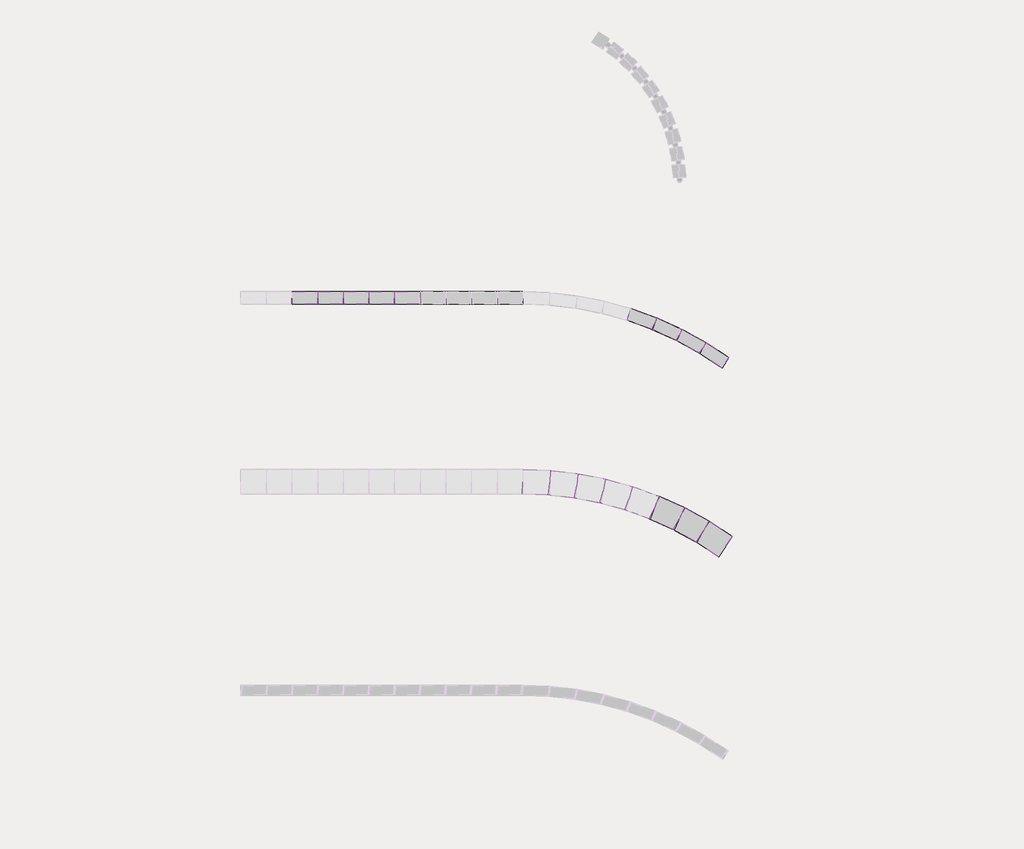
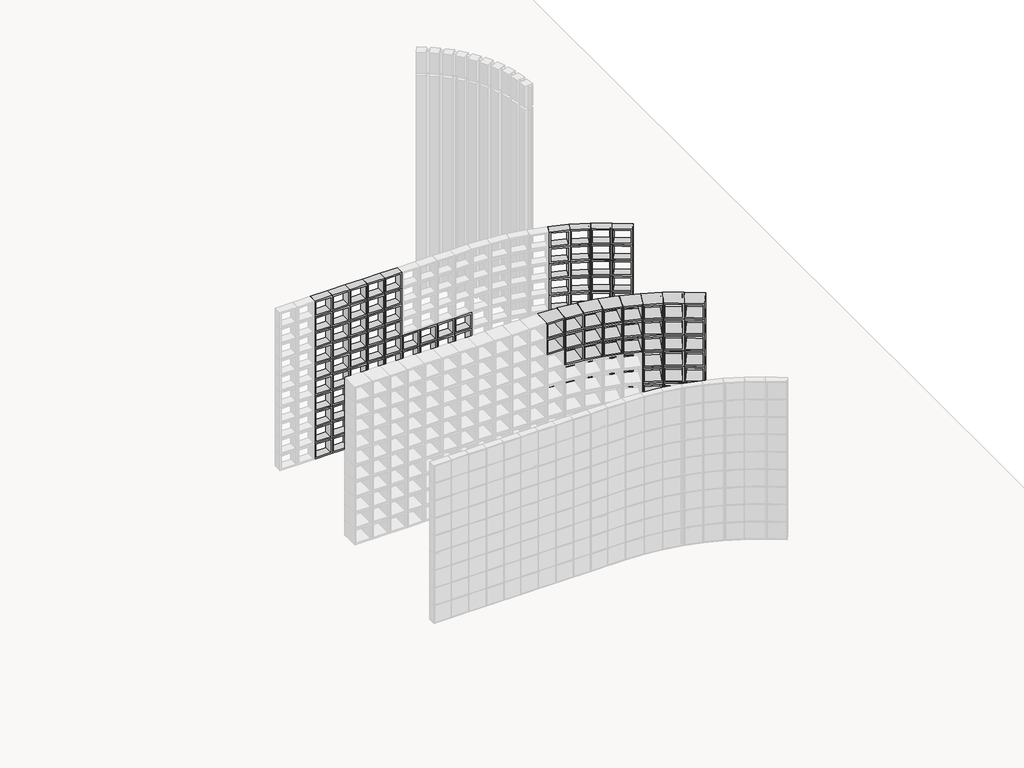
# One storey, part 8 of 15: 158 plates.
"""IFC4 building model written with IfcOpenShell, lengths in millimetres."""

from ifc_helpers import new_model, si_unit, origin, place, context, project, spatial, transform, mapped, element, save
from components import plate_64430686, plate_6f004fc1, plate_db6f8793

model = new_model("IFC4")

# Units and contexts
model_context = context("Model", 3, world=origin())
ifc_project = project(units=[si_unit("LENGTHUNIT", "METRE", prefix="MILLI")], contexts=[model_context])

# Site, building, storey
site = spatial("IfcSite", under=ifc_project)
building = spatial("IfcBuilding", under=site)
storey = spatial("IfcBuildingStorey", under=building, Name="TÉRREO", Elevation=0.0)

# Plates
placement = place(None, origin())
plate_shape = plate_64430686(model_context)
element("IfcPlate", 1, ObjectType="pnl - ELEMENTO VAZADO QUADRICULADO : e = 10", at=placement, inside=storey, context=model_context, shape_type="MappedRepresentation", body=[
    mapped(plate_shape, transform((44114.8395705, 6116.9852574, 0.0), x_axis=(1.0, 0.0, 0.0), y_axis=(0.0, 1.0, 0.0), z_axis=(0.0, 0.0, 1.0))),
])
element("IfcPlate", 2, ObjectType="pnl - ELEMENTO VAZADO QUADRICULADO : e = 10", at=placement, inside=storey, context=model_context, shape_type="MappedRepresentation", body=[
    mapped(plate_shape, transform((44323.9304796, 6116.9852574, 0.0), x_axis=(1.0, 0.0, 0.0), y_axis=(0.0, 1.0, 0.0), z_axis=(0.0, 0.0, 1.0))),
])
element("IfcPlate", 3, ObjectType="pnl - ELEMENTO VAZADO QUADRICULADO : e = 10", at=placement, inside=storey, context=model_context, shape_type="MappedRepresentation", body=[
    mapped(plate_shape, transform((44533.0213887, 6116.9852574, 0.0), x_axis=(1.0, 0.0, 0.0), y_axis=(0.0, 1.0, 0.0), z_axis=(0.0, 0.0, 1.0))),
])
element("IfcPlate", 4, ObjectType="pnl - ELEMENTO VAZADO QUADRICULADO : e = 10", at=placement, inside=storey, context=model_context, shape_type="MappedRepresentation", body=[
    mapped(plate_shape, transform((44742.1122977, 6116.9852574, 0.0), x_axis=(1.0, 0.0, 0.0), y_axis=(0.0, 1.0, 0.0), z_axis=(0.0, 0.0, 1.0))),
])
element("IfcPlate", 5, ObjectType="pnl - ELEMENTO VAZADO QUADRICULADO : e = 10", at=placement, inside=storey, context=model_context, shape_type="MappedRepresentation", body=[
    mapped(plate_shape, transform((44951.2032068, 6116.9852574, 0.0), x_axis=(1.0, 0.0, 0.0), y_axis=(0.0, 1.0, 0.0), z_axis=(0.0, 0.0, 1.0))),
])
element("IfcPlate", 6, ObjectType="pnl - ELEMENTO VAZADO QUADRICULADO : e = 10", at=placement, inside=storey, context=model_context, shape_type="MappedRepresentation", body=[
    mapped(plate_shape, transform((45160.2941159, 6116.9852574, 0.0), x_axis=(1.0, 0.0, 0.0), y_axis=(0.0, 1.0, 0.0), z_axis=(0.0, 0.0, 1.0))),
])
element("IfcPlate", 7, ObjectType="pnl - ELEMENTO VAZADO QUADRICULADO : e = 10", at=placement, inside=storey, context=model_context, shape_type="MappedRepresentation", body=[
    mapped(plate_shape, transform((45369.385025, 6116.9852574, 0.0), x_axis=(1.0, 0.0, 0.0), y_axis=(0.0, 1.0, 0.0), z_axis=(0.0, 0.0, 1.0))),
])
element("IfcPlate", 8, ObjectType="pnl - ELEMENTO VAZADO QUADRICULADO : e = 10", at=placement, inside=storey, context=model_context, shape_type="MappedRepresentation", body=[
    mapped(plate_shape, transform((45578.4759341, 6116.9852574, 0.0), x_axis=(1.0, 0.0, 0.0), y_axis=(0.0, 1.0, 0.0), z_axis=(0.0, 0.0, 1.0))),
])
element("IfcPlate", 9, ObjectType="pnl - ELEMENTO VAZADO QUADRICULADO : e = 10", at=placement, inside=storey, context=model_context, shape_type="MappedRepresentation", body=[
    mapped(plate_shape, transform((45787.5668432, 6116.9852574, 0.0), x_axis=(1.0, 0.0, 0.0), y_axis=(0.0, 1.0, 0.0), z_axis=(0.0, 0.0, 1.0))),
])
element("IfcPlate", 10, ObjectType="pnl - ELEMENTO VAZADO QUADRICULADO : e = 10", at=placement, inside=storey, context=model_context, shape_type="MappedRepresentation", body=[
    mapped(plate_shape, transform((44114.8395705, 6116.9852574, 200.0), x_axis=(1.0, 0.0, 0.0), y_axis=(0.0, 1.0, 0.0), z_axis=(0.0, 0.0, 1.0))),
])
element("IfcPlate", 11, ObjectType="pnl - ELEMENTO VAZADO QUADRICULADO : e = 10", at=placement, inside=storey, context=model_context, shape_type="MappedRepresentation", body=[
    mapped(plate_shape, transform((44323.9304796, 6116.9852574, 200.0), x_axis=(1.0, 0.0, 0.0), y_axis=(0.0, 1.0, 0.0), z_axis=(0.0, 0.0, 1.0))),
])
element("IfcPlate", 12, ObjectType="pnl - ELEMENTO VAZADO QUADRICULADO : e = 10", at=placement, inside=storey, context=model_context, shape_type="MappedRepresentation", body=[
    mapped(plate_shape, transform((44533.0213887, 6116.9852574, 200.0), x_axis=(1.0, 0.0, 0.0), y_axis=(0.0, 1.0, 0.0), z_axis=(0.0, 0.0, 1.0))),
])
element("IfcPlate", 13, ObjectType="pnl - ELEMENTO VAZADO QUADRICULADO : e = 10", at=placement, inside=storey, context=model_context, shape_type="MappedRepresentation", body=[
    mapped(plate_shape, transform((44742.1122977, 6116.9852574, 200.0), x_axis=(1.0, 0.0, 0.0), y_axis=(0.0, 1.0, 0.0), z_axis=(0.0, 0.0, 1.0))),
])
element("IfcPlate", 14, ObjectType="pnl - ELEMENTO VAZADO QUADRICULADO : e = 10", at=placement, inside=storey, context=model_context, shape_type="MappedRepresentation", body=[
    mapped(plate_shape, transform((44951.2032068, 6116.9852574, 200.0), x_axis=(1.0, 0.0, 0.0), y_axis=(0.0, 1.0, 0.0), z_axis=(0.0, 0.0, 1.0))),
])
element("IfcPlate", 15, ObjectType="pnl - ELEMENTO VAZADO QUADRICULADO : e = 10", at=placement, inside=storey, context=model_context, shape_type="MappedRepresentation", body=[
    mapped(plate_shape, transform((45160.2941159, 6116.9852574, 200.0), x_axis=(1.0, 0.0, 0.0), y_axis=(0.0, 1.0, 0.0), z_axis=(0.0, 0.0, 1.0))),
])
element("IfcPlate", 16, ObjectType="pnl - ELEMENTO VAZADO QUADRICULADO : e = 10", at=placement, inside=storey, context=model_context, shape_type="MappedRepresentation", body=[
    mapped(plate_shape, transform((45369.385025, 6116.9852574, 200.0), x_axis=(1.0, 0.0, 0.0), y_axis=(0.0, 1.0, 0.0), z_axis=(0.0, 0.0, 1.0))),
])
element("IfcPlate", 17, ObjectType="pnl - ELEMENTO VAZADO QUADRICULADO : e = 10", at=placement, inside=storey, context=model_context, shape_type="MappedRepresentation", body=[
    mapped(plate_shape, transform((45578.4759341, 6116.9852574, 200.0), x_axis=(1.0, 0.0, 0.0), y_axis=(0.0, 1.0, 0.0), z_axis=(0.0, 0.0, 1.0))),
])
element("IfcPlate", 18, ObjectType="pnl - ELEMENTO VAZADO QUADRICULADO : e = 10", at=placement, inside=storey, context=model_context, shape_type="MappedRepresentation", body=[
    mapped(plate_shape, transform((45787.5668432, 6116.9852574, 200.0), x_axis=(1.0, 0.0, 0.0), y_axis=(0.0, 1.0, 0.0), z_axis=(0.0, 0.0, 1.0))),
])
element("IfcPlate", 19, ObjectType="pnl - ELEMENTO VAZADO QUADRICULADO : e = 10", at=placement, inside=storey, context=model_context, shape_type="MappedRepresentation", body=[
    mapped(plate_shape, transform((44114.8395705, 6116.9852574, 400.0), x_axis=(1.0, 0.0, 0.0), y_axis=(0.0, 1.0, 0.0), z_axis=(0.0, 0.0, 1.0))),
])
element("IfcPlate", 20, ObjectType="pnl - ELEMENTO VAZADO QUADRICULADO : e = 10", at=placement, inside=storey, context=model_context, shape_type="MappedRepresentation", body=[
    mapped(plate_shape, transform((44323.9304796, 6116.9852574, 400.0), x_axis=(1.0, 0.0, 0.0), y_axis=(0.0, 1.0, 0.0), z_axis=(0.0, 0.0, 1.0))),
])
element("IfcPlate", 21, ObjectType="pnl - ELEMENTO VAZADO QUADRICULADO : e = 10", at=placement, inside=storey, context=model_context, shape_type="MappedRepresentation", body=[
    mapped(plate_shape, transform((44533.0213887, 6116.9852574, 400.0), x_axis=(1.0, 0.0, 0.0), y_axis=(0.0, 1.0, 0.0), z_axis=(0.0, 0.0, 1.0))),
])
element("IfcPlate", 22, ObjectType="pnl - ELEMENTO VAZADO QUADRICULADO : e = 10", at=placement, inside=storey, context=model_context, shape_type="MappedRepresentation", body=[
    mapped(plate_shape, transform((44742.1122977, 6116.9852574, 400.0), x_axis=(1.0, 0.0, 0.0), y_axis=(0.0, 1.0, 0.0), z_axis=(0.0, 0.0, 1.0))),
])
element("IfcPlate", 23, ObjectType="pnl - ELEMENTO VAZADO QUADRICULADO : e = 10", at=placement, inside=storey, context=model_context, shape_type="MappedRepresentation", body=[
    mapped(plate_shape, transform((44951.2032068, 6116.9852574, 400.0), x_axis=(1.0, 0.0, 0.0), y_axis=(0.0, 1.0, 0.0), z_axis=(0.0, 0.0, 1.0))),
])
element("IfcPlate", 24, ObjectType="pnl - ELEMENTO VAZADO QUADRICULADO : e = 10", at=placement, inside=storey, context=model_context, shape_type="MappedRepresentation", body=[
    mapped(plate_shape, transform((45160.2941159, 6116.9852574, 400.0), x_axis=(1.0, 0.0, 0.0), y_axis=(0.0, 1.0, 0.0), z_axis=(0.0, 0.0, 1.0))),
])
element("IfcPlate", 25, ObjectType="pnl - ELEMENTO VAZADO QUADRICULADO : e = 10", at=placement, inside=storey, context=model_context, shape_type="MappedRepresentation", body=[
    mapped(plate_shape, transform((45369.385025, 6116.9852574, 400.0), x_axis=(1.0, 0.0, 0.0), y_axis=(0.0, 1.0, 0.0), z_axis=(0.0, 0.0, 1.0))),
])
element("IfcPlate", 26, ObjectType="pnl - ELEMENTO VAZADO QUADRICULADO : e = 10", at=placement, inside=storey, context=model_context, shape_type="MappedRepresentation", body=[
    mapped(plate_shape, transform((45578.4759341, 6116.9852574, 400.0), x_axis=(1.0, 0.0, 0.0), y_axis=(0.0, 1.0, 0.0), z_axis=(0.0, 0.0, 1.0))),
])
element("IfcPlate", 27, ObjectType="pnl - ELEMENTO VAZADO QUADRICULADO : e = 10", at=placement, inside=storey, context=model_context, shape_type="MappedRepresentation", body=[
    mapped(plate_shape, transform((45787.5668432, 6116.9852574, 400.0), x_axis=(1.0, 0.0, 0.0), y_axis=(0.0, 1.0, 0.0), z_axis=(0.0, 0.0, 1.0))),
])
element("IfcPlate", 28, ObjectType="pnl - ELEMENTO VAZADO QUADRICULADO : e = 10", at=placement, inside=storey, context=model_context, shape_type="MappedRepresentation", body=[
    mapped(plate_shape, transform((44114.8395705, 6116.9852574, 600.0), x_axis=(1.0, 0.0, 0.0), y_axis=(0.0, 1.0, 0.0), z_axis=(0.0, 0.0, 1.0))),
])
element("IfcPlate", 29, ObjectType="pnl - ELEMENTO VAZADO QUADRICULADO : e = 10", at=placement, inside=storey, context=model_context, shape_type="MappedRepresentation", body=[
    mapped(plate_shape, transform((44323.9304796, 6116.9852574, 600.0), x_axis=(1.0, 0.0, 0.0), y_axis=(0.0, 1.0, 0.0), z_axis=(0.0, 0.0, 1.0))),
])
element("IfcPlate", 30, ObjectType="pnl - ELEMENTO VAZADO QUADRICULADO : e = 10", at=placement, inside=storey, context=model_context, shape_type="MappedRepresentation", body=[
    mapped(plate_shape, transform((44533.0213887, 6116.9852574, 600.0), x_axis=(1.0, 0.0, 0.0), y_axis=(0.0, 1.0, 0.0), z_axis=(0.0, 0.0, 1.0))),
])
element("IfcPlate", 31, ObjectType="pnl - ELEMENTO VAZADO QUADRICULADO : e = 10", at=placement, inside=storey, context=model_context, shape_type="MappedRepresentation", body=[
    mapped(plate_shape, transform((44742.1122977, 6116.9852574, 600.0), x_axis=(1.0, 0.0, 0.0), y_axis=(0.0, 1.0, 0.0), z_axis=(0.0, 0.0, 1.0))),
])
element("IfcPlate", 32, ObjectType="pnl - ELEMENTO VAZADO QUADRICULADO : e = 10", at=placement, inside=storey, context=model_context, shape_type="MappedRepresentation", body=[
    mapped(plate_shape, transform((44951.2032068, 6116.9852574, 600.0), x_axis=(1.0, 0.0, 0.0), y_axis=(0.0, 1.0, 0.0), z_axis=(0.0, 0.0, 1.0))),
])
element("IfcPlate", 33, ObjectType="pnl - ELEMENTO VAZADO QUADRICULADO : e = 10", at=placement, inside=storey, context=model_context, shape_type="MappedRepresentation", body=[
    mapped(plate_shape, transform((45160.2941159, 6116.9852574, 600.0), x_axis=(1.0, 0.0, 0.0), y_axis=(0.0, 1.0, 0.0), z_axis=(0.0, 0.0, 1.0))),
])
element("IfcPlate", 34, ObjectType="pnl - ELEMENTO VAZADO QUADRICULADO : e = 10", at=placement, inside=storey, context=model_context, shape_type="MappedRepresentation", body=[
    mapped(plate_shape, transform((45369.385025, 6116.9852574, 600.0), x_axis=(1.0, 0.0, 0.0), y_axis=(0.0, 1.0, 0.0), z_axis=(0.0, 0.0, 1.0))),
])
element("IfcPlate", 35, ObjectType="pnl - ELEMENTO VAZADO QUADRICULADO : e = 10", at=placement, inside=storey, context=model_context, shape_type="MappedRepresentation", body=[
    mapped(plate_shape, transform((45578.4759341, 6116.9852574, 600.0), x_axis=(1.0, 0.0, 0.0), y_axis=(0.0, 1.0, 0.0), z_axis=(0.0, 0.0, 1.0))),
])
element("IfcPlate", 36, ObjectType="pnl - ELEMENTO VAZADO QUADRICULADO : e = 10", at=placement, inside=storey, context=model_context, shape_type="MappedRepresentation", body=[
    mapped(plate_shape, transform((45787.5668432, 6116.9852574, 600.0), x_axis=(1.0, 0.0, 0.0), y_axis=(0.0, 1.0, 0.0), z_axis=(0.0, 0.0, 1.0))),
])
element("IfcPlate", 37, ObjectType="pnl - ELEMENTO VAZADO QUADRICULADO : e = 10", at=placement, inside=storey, context=model_context, shape_type="MappedRepresentation", body=[
    mapped(plate_shape, transform((44114.8395705, 6116.9852574, 800.0), x_axis=(1.0, 0.0, 0.0), y_axis=(0.0, 1.0, 0.0), z_axis=(0.0, 0.0, 1.0))),
])
element("IfcPlate", 38, ObjectType="pnl - ELEMENTO VAZADO QUADRICULADO : e = 10", at=placement, inside=storey, context=model_context, shape_type="MappedRepresentation", body=[
    mapped(plate_shape, transform((44323.9304796, 6116.9852574, 800.0), x_axis=(1.0, 0.0, 0.0), y_axis=(0.0, 1.0, 0.0), z_axis=(0.0, 0.0, 1.0))),
])
element("IfcPlate", 39, ObjectType="pnl - ELEMENTO VAZADO QUADRICULADO : e = 10", at=placement, inside=storey, context=model_context, shape_type="MappedRepresentation", body=[
    mapped(plate_shape, transform((44533.0213887, 6116.9852574, 800.0), x_axis=(1.0, 0.0, 0.0), y_axis=(0.0, 1.0, 0.0), z_axis=(0.0, 0.0, 1.0))),
])
element("IfcPlate", 40, ObjectType="pnl - ELEMENTO VAZADO QUADRICULADO : e = 10", at=placement, inside=storey, context=model_context, shape_type="MappedRepresentation", body=[
    mapped(plate_shape, transform((44742.1122977, 6116.9852574, 800.0), x_axis=(1.0, 0.0, 0.0), y_axis=(0.0, 1.0, 0.0), z_axis=(0.0, 0.0, 1.0))),
])
element("IfcPlate", 41, ObjectType="pnl - ELEMENTO VAZADO QUADRICULADO : e = 10", at=placement, inside=storey, context=model_context, shape_type="MappedRepresentation", body=[
    mapped(plate_shape, transform((44951.2032068, 6116.9852574, 800.0), x_axis=(1.0, 0.0, 0.0), y_axis=(0.0, 1.0, 0.0), z_axis=(0.0, 0.0, 1.0))),
])
element("IfcPlate", 42, ObjectType="pnl - ELEMENTO VAZADO QUADRICULADO : e = 10", at=placement, inside=storey, context=model_context, shape_type="MappedRepresentation", body=[
    mapped(plate_shape, transform((45160.2941159, 6116.9852574, 800.0), x_axis=(1.0, 0.0, 0.0), y_axis=(0.0, 1.0, 0.0), z_axis=(0.0, 0.0, 1.0))),
])
element("IfcPlate", 43, ObjectType="pnl - ELEMENTO VAZADO QUADRICULADO : e = 10", at=placement, inside=storey, context=model_context, shape_type="MappedRepresentation", body=[
    mapped(plate_shape, transform((45369.385025, 6116.9852574, 800.0), x_axis=(1.0, 0.0, 0.0), y_axis=(0.0, 1.0, 0.0), z_axis=(0.0, 0.0, 1.0))),
])
element("IfcPlate", 44, ObjectType="pnl - ELEMENTO VAZADO QUADRICULADO : e = 10", at=placement, inside=storey, context=model_context, shape_type="MappedRepresentation", body=[
    mapped(plate_shape, transform((45578.4759341, 6116.9852574, 800.0), x_axis=(1.0, 0.0, 0.0), y_axis=(0.0, 1.0, 0.0), z_axis=(0.0, 0.0, 1.0))),
])
element("IfcPlate", 45, ObjectType="pnl - ELEMENTO VAZADO QUADRICULADO : e = 10", at=placement, inside=storey, context=model_context, shape_type="MappedRepresentation", body=[
    mapped(plate_shape, transform((45787.5668432, 6116.9852574, 800.0), x_axis=(1.0, 0.0, 0.0), y_axis=(0.0, 1.0, 0.0), z_axis=(0.0, 0.0, 1.0))),
])
element("IfcPlate", 46, ObjectType="pnl - ELEMENTO VAZADO QUADRICULADO : e = 10", at=placement, inside=storey, context=model_context, shape_type="MappedRepresentation", body=[
    mapped(plate_shape, transform((44114.8395705, 6116.9852574, 1000.0), x_axis=(1.0, 0.0, 0.0), y_axis=(0.0, 1.0, 0.0), z_axis=(0.0, 0.0, 1.0))),
])
element("IfcPlate", 47, ObjectType="pnl - ELEMENTO VAZADO QUADRICULADO : e = 10", at=placement, inside=storey, context=model_context, shape_type="MappedRepresentation", body=[
    mapped(plate_shape, transform((44323.9304796, 6116.9852574, 1000.0), x_axis=(1.0, 0.0, 0.0), y_axis=(0.0, 1.0, 0.0), z_axis=(0.0, 0.0, 1.0))),
])
element("IfcPlate", 48, ObjectType="pnl - ELEMENTO VAZADO QUADRICULADO : e = 10", at=placement, inside=storey, context=model_context, shape_type="MappedRepresentation", body=[
    mapped(plate_shape, transform((44533.0213887, 6116.9852574, 1000.0), x_axis=(1.0, 0.0, 0.0), y_axis=(0.0, 1.0, 0.0), z_axis=(0.0, 0.0, 1.0))),
])
element("IfcPlate", 49, ObjectType="pnl - ELEMENTO VAZADO QUADRICULADO : e = 10", at=placement, inside=storey, context=model_context, shape_type="MappedRepresentation", body=[
    mapped(plate_shape, transform((44742.1122977, 6116.9852574, 1000.0), x_axis=(1.0, 0.0, 0.0), y_axis=(0.0, 1.0, 0.0), z_axis=(0.0, 0.0, 1.0))),
])
element("IfcPlate", 50, ObjectType="pnl - ELEMENTO VAZADO QUADRICULADO : e = 10", at=placement, inside=storey, context=model_context, shape_type="MappedRepresentation", body=[
    mapped(plate_shape, transform((44951.2032068, 6116.9852574, 1000.0), x_axis=(1.0, 0.0, 0.0), y_axis=(0.0, 1.0, 0.0), z_axis=(0.0, 0.0, 1.0))),
])
element("IfcPlate", 51, ObjectType="pnl - ELEMENTO VAZADO QUADRICULADO : e = 10", at=placement, inside=storey, context=model_context, shape_type="MappedRepresentation", body=[
    mapped(plate_shape, transform((45160.2941159, 6116.9852574, 1000.0), x_axis=(1.0, 0.0, 0.0), y_axis=(0.0, 1.0, 0.0), z_axis=(0.0, 0.0, 1.0))),
])
element("IfcPlate", 52, ObjectType="pnl - ELEMENTO VAZADO QUADRICULADO : e = 10", at=placement, inside=storey, context=model_context, shape_type="MappedRepresentation", body=[
    mapped(plate_shape, transform((45369.385025, 6116.9852574, 1000.0), x_axis=(1.0, 0.0, 0.0), y_axis=(0.0, 1.0, 0.0), z_axis=(0.0, 0.0, 1.0))),
])
element("IfcPlate", 53, ObjectType="pnl - ELEMENTO VAZADO QUADRICULADO : e = 10", at=placement, inside=storey, context=model_context, shape_type="MappedRepresentation", body=[
    mapped(plate_shape, transform((45578.4759341, 6116.9852574, 1000.0), x_axis=(1.0, 0.0, 0.0), y_axis=(0.0, 1.0, 0.0), z_axis=(0.0, 0.0, 1.0))),
])
element("IfcPlate", 54, ObjectType="pnl - ELEMENTO VAZADO QUADRICULADO : e = 10", at=placement, inside=storey, context=model_context, shape_type="MappedRepresentation", body=[
    mapped(plate_shape, transform((45787.5668432, 6116.9852574, 1000.0), x_axis=(1.0, 0.0, 0.0), y_axis=(0.0, 1.0, 0.0), z_axis=(0.0, 0.0, 1.0))),
])
element("IfcPlate", 55, ObjectType="pnl - ELEMENTO VAZADO QUADRICULADO : e = 10", at=placement, inside=storey, context=model_context, shape_type="MappedRepresentation", body=[
    mapped(plate_shape, transform((44114.8395705, 6116.9852574, 1200.0), x_axis=(1.0, 0.0, 0.0), y_axis=(0.0, 1.0, 0.0), z_axis=(0.0, 0.0, 1.0))),
])
element("IfcPlate", 56, ObjectType="pnl - ELEMENTO VAZADO QUADRICULADO : e = 10", at=placement, inside=storey, context=model_context, shape_type="MappedRepresentation", body=[
    mapped(plate_shape, transform((44323.9304796, 6116.9852574, 1200.0), x_axis=(1.0, 0.0, 0.0), y_axis=(0.0, 1.0, 0.0), z_axis=(0.0, 0.0, 1.0))),
])
element("IfcPlate", 57, ObjectType="pnl - ELEMENTO VAZADO QUADRICULADO : e = 10", at=placement, inside=storey, context=model_context, shape_type="MappedRepresentation", body=[
    mapped(plate_shape, transform((44533.0213887, 6116.9852574, 1200.0), x_axis=(1.0, 0.0, 0.0), y_axis=(0.0, 1.0, 0.0), z_axis=(0.0, 0.0, 1.0))),
])
element("IfcPlate", 58, ObjectType="pnl - ELEMENTO VAZADO QUADRICULADO : e = 10", at=placement, inside=storey, context=model_context, shape_type="MappedRepresentation", body=[
    mapped(plate_shape, transform((44742.1122977, 6116.9852574, 1200.0), x_axis=(1.0, 0.0, 0.0), y_axis=(0.0, 1.0, 0.0), z_axis=(0.0, 0.0, 1.0))),
])
element("IfcPlate", 59, ObjectType="pnl - ELEMENTO VAZADO QUADRICULADO : e = 10", at=placement, inside=storey, context=model_context, shape_type="MappedRepresentation", body=[
    mapped(plate_shape, transform((44951.2032068, 6116.9852574, 1200.0), x_axis=(1.0, 0.0, 0.0), y_axis=(0.0, 1.0, 0.0), z_axis=(0.0, 0.0, 1.0))),
])
element("IfcPlate", 60, ObjectType="pnl - ELEMENTO VAZADO QUADRICULADO : e = 10", at=placement, inside=storey, context=model_context, shape_type="MappedRepresentation", body=[
    mapped(plate_shape, transform((44114.8395705, 6116.9852574, 1400.0), x_axis=(1.0, 0.0, 0.0), y_axis=(0.0, 1.0, 0.0), z_axis=(0.0, 0.0, 1.0))),
])
element("IfcPlate", 61, ObjectType="pnl - ELEMENTO VAZADO QUADRICULADO : e = 10", at=placement, inside=storey, context=model_context, shape_type="MappedRepresentation", body=[
    mapped(plate_shape, transform((44323.9304796, 6116.9852574, 1400.0), x_axis=(1.0, 0.0, 0.0), y_axis=(0.0, 1.0, 0.0), z_axis=(0.0, 0.0, 1.0))),
])
element("IfcPlate", 62, ObjectType="pnl - ELEMENTO VAZADO QUADRICULADO : e = 10", at=placement, inside=storey, context=model_context, shape_type="MappedRepresentation", body=[
    mapped(plate_shape, transform((44533.0213887, 6116.9852574, 1400.0), x_axis=(1.0, 0.0, 0.0), y_axis=(0.0, 1.0, 0.0), z_axis=(0.0, 0.0, 1.0))),
])
element("IfcPlate", 63, ObjectType="pnl - ELEMENTO VAZADO QUADRICULADO : e = 10", at=placement, inside=storey, context=model_context, shape_type="MappedRepresentation", body=[
    mapped(plate_shape, transform((44742.1122977, 6116.9852574, 1400.0), x_axis=(1.0, 0.0, 0.0), y_axis=(0.0, 1.0, 0.0), z_axis=(0.0, 0.0, 1.0))),
])
element("IfcPlate", 64, ObjectType="pnl - ELEMENTO VAZADO QUADRICULADO : e = 10", at=placement, inside=storey, context=model_context, shape_type="MappedRepresentation", body=[
    mapped(plate_shape, transform((44951.2032068, 6116.9852574, 1400.0), x_axis=(1.0, 0.0, 0.0), y_axis=(0.0, 1.0, 0.0), z_axis=(0.0, 0.0, 1.0))),
])
element("IfcPlate", 65, ObjectType="pnl - ELEMENTO VAZADO QUADRICULADO : e = 10", at=placement, inside=storey, context=model_context, shape_type="MappedRepresentation", body=[
    mapped(plate_shape, transform((44114.8395705, 6116.9852574, 1600.0), x_axis=(1.0, 0.0, 0.0), y_axis=(0.0, 1.0, 0.0), z_axis=(0.0, 0.0, 1.0))),
])
element("IfcPlate", 66, ObjectType="pnl - ELEMENTO VAZADO QUADRICULADO : e = 10", at=placement, inside=storey, context=model_context, shape_type="MappedRepresentation", body=[
    mapped(plate_shape, transform((44323.9304796, 6116.9852574, 1600.0), x_axis=(1.0, 0.0, 0.0), y_axis=(0.0, 1.0, 0.0), z_axis=(0.0, 0.0, 1.0))),
])
element("IfcPlate", 67, ObjectType="pnl - ELEMENTO VAZADO QUADRICULADO : e = 10", at=placement, inside=storey, context=model_context, shape_type="MappedRepresentation", body=[
    mapped(plate_shape, transform((44533.0213887, 6116.9852574, 1600.0), x_axis=(1.0, 0.0, 0.0), y_axis=(0.0, 1.0, 0.0), z_axis=(0.0, 0.0, 1.0))),
])
element("IfcPlate", 68, ObjectType="pnl - ELEMENTO VAZADO QUADRICULADO : e = 10", at=placement, inside=storey, context=model_context, shape_type="MappedRepresentation", body=[
    mapped(plate_shape, transform((44742.1122977, 6116.9852574, 1600.0), x_axis=(1.0, 0.0, 0.0), y_axis=(0.0, 1.0, 0.0), z_axis=(0.0, 0.0, 1.0))),
])
element("IfcPlate", 69, ObjectType="pnl - ELEMENTO VAZADO QUADRICULADO : e = 10", at=placement, inside=storey, context=model_context, shape_type="MappedRepresentation", body=[
    mapped(plate_shape, transform((44951.2032068, 6116.9852574, 1600.0), x_axis=(1.0, 0.0, 0.0), y_axis=(0.0, 1.0, 0.0), z_axis=(0.0, 0.0, 1.0))),
])
element("IfcPlate", 70, ObjectType="pnl - ELEMENTO VAZADO QUADRICULADO : e = 10", at=placement, inside=storey, context=model_context, shape_type="MappedRepresentation", body=[
    mapped(plate_shape, transform((44114.8395705, 6116.9852574, 1800.0), x_axis=(1.0, 0.0, 0.0), y_axis=(0.0, 1.0, 0.0), z_axis=(0.0, 0.0, 1.0))),
])
element("IfcPlate", 71, ObjectType="pnl - ELEMENTO VAZADO QUADRICULADO : e = 10", at=placement, inside=storey, context=model_context, shape_type="MappedRepresentation", body=[
    mapped(plate_shape, transform((44323.9304796, 6116.9852574, 1800.0), x_axis=(1.0, 0.0, 0.0), y_axis=(0.0, 1.0, 0.0), z_axis=(0.0, 0.0, 1.0))),
])
element("IfcPlate", 72, ObjectType="pnl - ELEMENTO VAZADO QUADRICULADO : e = 10", at=placement, inside=storey, context=model_context, shape_type="MappedRepresentation", body=[
    mapped(plate_shape, transform((44533.0213887, 6116.9852574, 1800.0), x_axis=(1.0, 0.0, 0.0), y_axis=(0.0, 1.0, 0.0), z_axis=(0.0, 0.0, 1.0))),
])
element("IfcPlate", 73, ObjectType="pnl - ELEMENTO VAZADO QUADRICULADO : e = 10", at=placement, inside=storey, context=model_context, shape_type="MappedRepresentation", body=[
    mapped(plate_shape, transform((44742.1122977, 6116.9852574, 1800.0), x_axis=(1.0, 0.0, 0.0), y_axis=(0.0, 1.0, 0.0), z_axis=(0.0, 0.0, 1.0))),
])
element("IfcPlate", 74, ObjectType="pnl - ELEMENTO VAZADO QUADRICULADO : e = 10", at=placement, inside=storey, context=model_context, shape_type="MappedRepresentation", body=[
    mapped(plate_shape, transform((44951.2032068, 6116.9852574, 1800.0), x_axis=(1.0, 0.0, 0.0), y_axis=(0.0, 1.0, 0.0), z_axis=(0.0, 0.0, 1.0))),
])
plate_2_shape = plate_6f004fc1(model_context)
element("IfcPlate", 75, ObjectType="pnl - ELEMENTO VAZADO QUADRICULADO : e = 10", at=placement, inside=storey, context=model_context, shape_type="MappedRepresentation", body=[
    mapped(plate_2_shape, transform((46863.0346061, 5943.8178718, 0.0), x_axis=(0.9398065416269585, -0.34170698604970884, 0.0), y_axis=(0.34170698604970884, 0.9398065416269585, 0.0), z_axis=(0.0, 0.0, 1.0))),
])
element("IfcPlate", 76, ObjectType="pnl - ELEMENTO VAZADO QUADRICULADO : e = 10", at=placement, inside=storey, context=model_context, shape_type="MappedRepresentation", body=[
    mapped(plate_2_shape, transform((47066.8557164, 5860.6358351, 0.0), x_axis=(0.9105314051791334, -0.413439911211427, 0.0), y_axis=(0.413439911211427, 0.9105314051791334, 0.0), z_axis=(0.0, 0.0, 1.0))),
])
element("IfcPlate", 77, ObjectType="pnl - ELEMENTO VAZADO QUADRICULADO : e = 10", at=placement, inside=storey, context=model_context, shape_type="MappedRepresentation", body=[
    mapped(plate_2_shape, transform((47263.6252576, 5761.9239114, 0.0), x_axis=(0.8757906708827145, -0.4826911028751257, 0.0), y_axis=(0.4826911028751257, 0.8757906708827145, 0.0), z_axis=(0.0, 0.0, 1.0))),
])
element("IfcPlate", 78, ObjectType="pnl - ELEMENTO VAZADO QUADRICULADO : e = 10", at=placement, inside=storey, context=model_context, shape_type="MappedRepresentation", body=[
    mapped(plate_2_shape, transform((47452.1620918, 5648.2746334, 0.0), x_axis=(0.8357928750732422, -0.5490448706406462, 0.0), y_axis=(0.5490448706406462, 0.8357928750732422, 0.0), z_axis=(0.0, 0.0, 1.0))),
])
element("IfcPlate", 79, ObjectType="pnl - ELEMENTO VAZADO QUADRICULADO : e = 10", at=placement, inside=storey, context=model_context, shape_type="MappedRepresentation", body=[
    mapped(plate_2_shape, transform((46863.0346061, 5943.8178718, 200.0), x_axis=(0.9398065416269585, -0.34170698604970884, 0.0), y_axis=(0.34170698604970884, 0.9398065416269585, 0.0), z_axis=(0.0, 0.0, 1.0))),
])
element("IfcPlate", 80, ObjectType="pnl - ELEMENTO VAZADO QUADRICULADO : e = 10", at=placement, inside=storey, context=model_context, shape_type="MappedRepresentation", body=[
    mapped(plate_2_shape, transform((47066.8557164, 5860.6358351, 200.0), x_axis=(0.9105314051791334, -0.413439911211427, 0.0), y_axis=(0.413439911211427, 0.9105314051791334, 0.0), z_axis=(0.0, 0.0, 1.0))),
])
element("IfcPlate", 81, ObjectType="pnl - ELEMENTO VAZADO QUADRICULADO : e = 10", at=placement, inside=storey, context=model_context, shape_type="MappedRepresentation", body=[
    mapped(plate_2_shape, transform((47263.6252576, 5761.9239114, 200.0), x_axis=(0.8757906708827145, -0.4826911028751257, 0.0), y_axis=(0.4826911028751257, 0.8757906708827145, 0.0), z_axis=(0.0, 0.0, 1.0))),
])
element("IfcPlate", 82, ObjectType="pnl - ELEMENTO VAZADO QUADRICULADO : e = 10", at=placement, inside=storey, context=model_context, shape_type="MappedRepresentation", body=[
    mapped(plate_2_shape, transform((47452.1620918, 5648.2746334, 200.0), x_axis=(0.8357928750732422, -0.5490448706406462, 0.0), y_axis=(0.5490448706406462, 0.8357928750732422, 0.0), z_axis=(0.0, 0.0, 1.0))),
])
element("IfcPlate", 83, ObjectType="pnl - ELEMENTO VAZADO QUADRICULADO : e = 10", at=placement, inside=storey, context=model_context, shape_type="MappedRepresentation", body=[
    mapped(plate_2_shape, transform((46863.0346061, 5943.8178718, 400.0), x_axis=(0.9398065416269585, -0.34170698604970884, 0.0), y_axis=(0.34170698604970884, 0.9398065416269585, 0.0), z_axis=(0.0, 0.0, 1.0))),
])
element("IfcPlate", 84, ObjectType="pnl - ELEMENTO VAZADO QUADRICULADO : e = 10", at=placement, inside=storey, context=model_context, shape_type="MappedRepresentation", body=[
    mapped(plate_2_shape, transform((47066.8557164, 5860.6358351, 400.0), x_axis=(0.9105314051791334, -0.413439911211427, 0.0), y_axis=(0.413439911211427, 0.9105314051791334, 0.0), z_axis=(0.0, 0.0, 1.0))),
])
element("IfcPlate", 85, ObjectType="pnl - ELEMENTO VAZADO QUADRICULADO : e = 10", at=placement, inside=storey, context=model_context, shape_type="MappedRepresentation", body=[
    mapped(plate_2_shape, transform((47263.6252576, 5761.9239114, 400.0), x_axis=(0.8757906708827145, -0.4826911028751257, 0.0), y_axis=(0.4826911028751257, 0.8757906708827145, 0.0), z_axis=(0.0, 0.0, 1.0))),
])
element("IfcPlate", 86, ObjectType="pnl - ELEMENTO VAZADO QUADRICULADO : e = 10", at=placement, inside=storey, context=model_context, shape_type="MappedRepresentation", body=[
    mapped(plate_2_shape, transform((47452.1620918, 5648.2746334, 400.0), x_axis=(0.8357928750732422, -0.5490448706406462, 0.0), y_axis=(0.5490448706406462, 0.8357928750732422, 0.0), z_axis=(0.0, 0.0, 1.0))),
])
element("IfcPlate", 87, ObjectType="pnl - ELEMENTO VAZADO QUADRICULADO : e = 10", at=placement, inside=storey, context=model_context, shape_type="MappedRepresentation", body=[
    mapped(plate_2_shape, transform((46863.0346061, 5943.8178718, 600.0), x_axis=(0.9398065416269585, -0.34170698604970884, 0.0), y_axis=(0.34170698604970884, 0.9398065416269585, 0.0), z_axis=(0.0, 0.0, 1.0))),
])
element("IfcPlate", 88, ObjectType="pnl - ELEMENTO VAZADO QUADRICULADO : e = 10", at=placement, inside=storey, context=model_context, shape_type="MappedRepresentation", body=[
    mapped(plate_2_shape, transform((47066.8557164, 5860.6358351, 600.0), x_axis=(0.9105314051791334, -0.413439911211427, 0.0), y_axis=(0.413439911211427, 0.9105314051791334, 0.0), z_axis=(0.0, 0.0, 1.0))),
])
element("IfcPlate", 89, ObjectType="pnl - ELEMENTO VAZADO QUADRICULADO : e = 10", at=placement, inside=storey, context=model_context, shape_type="MappedRepresentation", body=[
    mapped(plate_2_shape, transform((47263.6252576, 5761.9239114, 600.0), x_axis=(0.8757906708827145, -0.4826911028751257, 0.0), y_axis=(0.4826911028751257, 0.8757906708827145, 0.0), z_axis=(0.0, 0.0, 1.0))),
])
element("IfcPlate", 90, ObjectType="pnl - ELEMENTO VAZADO QUADRICULADO : e = 10", at=placement, inside=storey, context=model_context, shape_type="MappedRepresentation", body=[
    mapped(plate_2_shape, transform((47452.1620918, 5648.2746334, 600.0), x_axis=(0.8357928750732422, -0.5490448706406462, 0.0), y_axis=(0.5490448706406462, 0.8357928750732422, 0.0), z_axis=(0.0, 0.0, 1.0))),
])
element("IfcPlate", 91, ObjectType="pnl - ELEMENTO VAZADO QUADRICULADO : e = 10", at=placement, inside=storey, context=model_context, shape_type="MappedRepresentation", body=[
    mapped(plate_2_shape, transform((46863.0346061, 5943.8178718, 800.0), x_axis=(0.9398065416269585, -0.34170698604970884, 0.0), y_axis=(0.34170698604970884, 0.9398065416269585, 0.0), z_axis=(0.0, 0.0, 1.0))),
])
element("IfcPlate", 92, ObjectType="pnl - ELEMENTO VAZADO QUADRICULADO : e = 10", at=placement, inside=storey, context=model_context, shape_type="MappedRepresentation", body=[
    mapped(plate_2_shape, transform((47066.8557164, 5860.6358351, 800.0), x_axis=(0.9105314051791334, -0.413439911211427, 0.0), y_axis=(0.413439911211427, 0.9105314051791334, 0.0), z_axis=(0.0, 0.0, 1.0))),
])
element("IfcPlate", 93, ObjectType="pnl - ELEMENTO VAZADO QUADRICULADO : e = 10", at=placement, inside=storey, context=model_context, shape_type="MappedRepresentation", body=[
    mapped(plate_2_shape, transform((47263.6252576, 5761.9239114, 800.0), x_axis=(0.8757906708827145, -0.4826911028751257, 0.0), y_axis=(0.4826911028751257, 0.8757906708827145, 0.0), z_axis=(0.0, 0.0, 1.0))),
])
element("IfcPlate", 94, ObjectType="pnl - ELEMENTO VAZADO QUADRICULADO : e = 10", at=placement, inside=storey, context=model_context, shape_type="MappedRepresentation", body=[
    mapped(plate_2_shape, transform((47452.1620918, 5648.2746334, 800.0), x_axis=(0.8357928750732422, -0.5490448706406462, 0.0), y_axis=(0.5490448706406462, 0.8357928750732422, 0.0), z_axis=(0.0, 0.0, 1.0))),
])
element("IfcPlate", 95, ObjectType="pnl - ELEMENTO VAZADO QUADRICULADO : e = 10", at=placement, inside=storey, context=model_context, shape_type="MappedRepresentation", body=[
    mapped(plate_2_shape, transform((46863.0346061, 5943.8178718, 1000.0), x_axis=(0.9398065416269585, -0.34170698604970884, 0.0), y_axis=(0.34170698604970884, 0.9398065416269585, 0.0), z_axis=(0.0, 0.0, 1.0))),
])
element("IfcPlate", 96, ObjectType="pnl - ELEMENTO VAZADO QUADRICULADO : e = 10", at=placement, inside=storey, context=model_context, shape_type="MappedRepresentation", body=[
    mapped(plate_2_shape, transform((47066.8557164, 5860.6358351, 1000.0), x_axis=(0.9105314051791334, -0.413439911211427, 0.0), y_axis=(0.413439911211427, 0.9105314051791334, 0.0), z_axis=(0.0, 0.0, 1.0))),
])
element("IfcPlate", 97, ObjectType="pnl - ELEMENTO VAZADO QUADRICULADO : e = 10", at=placement, inside=storey, context=model_context, shape_type="MappedRepresentation", body=[
    mapped(plate_2_shape, transform((47263.6252576, 5761.9239114, 1000.0), x_axis=(0.8757906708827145, -0.4826911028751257, 0.0), y_axis=(0.4826911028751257, 0.8757906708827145, 0.0), z_axis=(0.0, 0.0, 1.0))),
])
element("IfcPlate", 98, ObjectType="pnl - ELEMENTO VAZADO QUADRICULADO : e = 10", at=placement, inside=storey, context=model_context, shape_type="MappedRepresentation", body=[
    mapped(plate_2_shape, transform((47452.1620918, 5648.2746334, 1000.0), x_axis=(0.8357928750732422, -0.5490448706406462, 0.0), y_axis=(0.5490448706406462, 0.8357928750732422, 0.0), z_axis=(0.0, 0.0, 1.0))),
])
element("IfcPlate", 99, ObjectType="pnl - ELEMENTO VAZADO QUADRICULADO : e = 10", at=placement, inside=storey, context=model_context, shape_type="MappedRepresentation", body=[
    mapped(plate_2_shape, transform((46863.0346061, 5943.8178718, 1200.0), x_axis=(0.9398065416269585, -0.34170698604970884, 0.0), y_axis=(0.34170698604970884, 0.9398065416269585, 0.0), z_axis=(0.0, 0.0, 1.0))),
])
element("IfcPlate", 100, ObjectType="pnl - ELEMENTO VAZADO QUADRICULADO : e = 10", at=placement, inside=storey, context=model_context, shape_type="MappedRepresentation", body=[
    mapped(plate_2_shape, transform((47066.8557164, 5860.6358351, 1200.0), x_axis=(0.9105314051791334, -0.413439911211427, 0.0), y_axis=(0.413439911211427, 0.9105314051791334, 0.0), z_axis=(0.0, 0.0, 1.0))),
])
element("IfcPlate", 101, ObjectType="pnl - ELEMENTO VAZADO QUADRICULADO : e = 10", at=placement, inside=storey, context=model_context, shape_type="MappedRepresentation", body=[
    mapped(plate_2_shape, transform((47263.6252576, 5761.9239114, 1200.0), x_axis=(0.8757906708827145, -0.4826911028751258, 0.0), y_axis=(0.4826911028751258, 0.8757906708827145, 0.0), z_axis=(0.0, 0.0, 1.0))),
])
element("IfcPlate", 102, ObjectType="pnl - ELEMENTO VAZADO QUADRICULADO : e = 10", at=placement, inside=storey, context=model_context, shape_type="MappedRepresentation", body=[
    mapped(plate_2_shape, transform((47452.1620918, 5648.2746334, 1200.0), x_axis=(0.8357928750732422, -0.5490448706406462, 0.0), y_axis=(0.5490448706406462, 0.8357928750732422, 0.0), z_axis=(0.0, 0.0, 1.0))),
])
element("IfcPlate", 103, ObjectType="pnl - ELEMENTO VAZADO QUADRICULADO : e = 10", at=placement, inside=storey, context=model_context, shape_type="MappedRepresentation", body=[
    mapped(plate_2_shape, transform((46863.0346061, 5943.8178718, 1400.0), x_axis=(0.9398065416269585, -0.34170698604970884, 0.0), y_axis=(0.34170698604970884, 0.9398065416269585, 0.0), z_axis=(0.0, 0.0, 1.0))),
])
element("IfcPlate", 104, ObjectType="pnl - ELEMENTO VAZADO QUADRICULADO : e = 10", at=placement, inside=storey, context=model_context, shape_type="MappedRepresentation", body=[
    mapped(plate_2_shape, transform((47066.8557164, 5860.6358351, 1400.0), x_axis=(0.9105314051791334, -0.413439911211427, 0.0), y_axis=(0.413439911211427, 0.9105314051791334, 0.0), z_axis=(0.0, 0.0, 1.0))),
])
element("IfcPlate", 105, ObjectType="pnl - ELEMENTO VAZADO QUADRICULADO : e = 10", at=placement, inside=storey, context=model_context, shape_type="MappedRepresentation", body=[
    mapped(plate_2_shape, transform((47263.6252576, 5761.9239114, 1400.0), x_axis=(0.8757906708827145, -0.4826911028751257, 0.0), y_axis=(0.4826911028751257, 0.8757906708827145, 0.0), z_axis=(0.0, 0.0, 1.0))),
])
element("IfcPlate", 106, ObjectType="pnl - ELEMENTO VAZADO QUADRICULADO : e = 10", at=placement, inside=storey, context=model_context, shape_type="MappedRepresentation", body=[
    mapped(plate_2_shape, transform((47452.1620918, 5648.2746334, 1400.0), x_axis=(0.8357928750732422, -0.5490448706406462, 0.0), y_axis=(0.5490448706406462, 0.8357928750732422, 0.0), z_axis=(0.0, 0.0, 1.0))),
])
element("IfcPlate", 107, ObjectType="pnl - ELEMENTO VAZADO QUADRICULADO : e = 10", at=placement, inside=storey, context=model_context, shape_type="MappedRepresentation", body=[
    mapped(plate_2_shape, transform((46863.0346061, 5943.8178718, 1600.0), x_axis=(0.9398065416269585, -0.34170698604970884, 0.0), y_axis=(0.34170698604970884, 0.9398065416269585, 0.0), z_axis=(0.0, 0.0, 1.0))),
])
element("IfcPlate", 108, ObjectType="pnl - ELEMENTO VAZADO QUADRICULADO : e = 10", at=placement, inside=storey, context=model_context, shape_type="MappedRepresentation", body=[
    mapped(plate_2_shape, transform((47066.8557164, 5860.6358351, 1600.0), x_axis=(0.9105314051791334, -0.413439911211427, 0.0), y_axis=(0.413439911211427, 0.9105314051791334, 0.0), z_axis=(0.0, 0.0, 1.0))),
])
element("IfcPlate", 109, ObjectType="pnl - ELEMENTO VAZADO QUADRICULADO : e = 10", at=placement, inside=storey, context=model_context, shape_type="MappedRepresentation", body=[
    mapped(plate_2_shape, transform((47263.6252576, 5761.9239114, 1600.0), x_axis=(0.8757906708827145, -0.4826911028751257, 0.0), y_axis=(0.4826911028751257, 0.8757906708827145, 0.0), z_axis=(0.0, 0.0, 1.0))),
])
element("IfcPlate", 110, ObjectType="pnl - ELEMENTO VAZADO QUADRICULADO : e = 10", at=placement, inside=storey, context=model_context, shape_type="MappedRepresentation", body=[
    mapped(plate_2_shape, transform((47452.1620918, 5648.2746334, 1600.0), x_axis=(0.8357928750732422, -0.5490448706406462, 0.0), y_axis=(0.5490448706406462, 0.8357928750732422, 0.0), z_axis=(0.0, 0.0, 1.0))),
])
element("IfcPlate", 111, ObjectType="pnl - ELEMENTO VAZADO QUADRICULADO : e = 10", at=placement, inside=storey, context=model_context, shape_type="MappedRepresentation", body=[
    mapped(plate_2_shape, transform((46863.0346061, 5943.8178718, 1800.0), x_axis=(0.9398065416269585, -0.34170698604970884, 0.0), y_axis=(0.34170698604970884, 0.9398065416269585, 0.0), z_axis=(0.0, 0.0, 1.0))),
])
element("IfcPlate", 112, ObjectType="pnl - ELEMENTO VAZADO QUADRICULADO : e = 10", at=placement, inside=storey, context=model_context, shape_type="MappedRepresentation", body=[
    mapped(plate_2_shape, transform((47066.8557164, 5860.6358351, 1800.0), x_axis=(0.9105314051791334, -0.413439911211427, 0.0), y_axis=(0.413439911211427, 0.9105314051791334, 0.0), z_axis=(0.0, 0.0, 1.0))),
])
element("IfcPlate", 113, ObjectType="pnl - ELEMENTO VAZADO QUADRICULADO : e = 10", at=placement, inside=storey, context=model_context, shape_type="MappedRepresentation", body=[
    mapped(plate_2_shape, transform((47263.6252576, 5761.9239114, 1800.0), x_axis=(0.8757906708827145, -0.4826911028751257, 0.0), y_axis=(0.4826911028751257, 0.8757906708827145, 0.0), z_axis=(0.0, 0.0, 1.0))),
])
element("IfcPlate", 114, ObjectType="pnl - ELEMENTO VAZADO QUADRICULADO : e = 10", at=placement, inside=storey, context=model_context, shape_type="MappedRepresentation", body=[
    mapped(plate_2_shape, transform((47452.1620918, 5648.2746334, 1800.0), x_axis=(0.8357928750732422, -0.5490448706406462, 0.0), y_axis=(0.5490448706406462, 0.8357928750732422, 0.0), z_axis=(0.0, 0.0, 1.0))),
])
plate_3_shape = plate_db6f8793(model_context)
element("IfcPlate", 115, ObjectType="pnl - ELEMENTO VAZADO QUADRICULADO : e = 20", at=placement, inside=storey, context=model_context, shape_type="MappedRepresentation", body=[
    mapped(plate_3_shape, transform((47066.8557164, 4360.6358351, 0.0), x_axis=(0.9105314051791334, -0.413439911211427, 0.0), y_axis=(0.413439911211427, 0.9105314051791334, 0.0), z_axis=(0.0, 0.0, 1.0))),
])
element("IfcPlate", 116, ObjectType="pnl - ELEMENTO VAZADO QUADRICULADO : e = 20", at=placement, inside=storey, context=model_context, shape_type="MappedRepresentation", body=[
    mapped(plate_3_shape, transform((47263.6252576, 4261.9239114, 0.0), x_axis=(0.8757906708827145, -0.4826911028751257, 0.0), y_axis=(0.4826911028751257, 0.8757906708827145, 0.0), z_axis=(0.0, 0.0, 1.0))),
])
element("IfcPlate", 117, ObjectType="pnl - ELEMENTO VAZADO QUADRICULADO : e = 20", at=placement, inside=storey, context=model_context, shape_type="MappedRepresentation", body=[
    mapped(plate_3_shape, transform((47452.1620918, 4148.2746334, 0.0), x_axis=(0.8357928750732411, -0.5490448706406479, 0.0), y_axis=(0.5490448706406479, 0.8357928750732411, 0.0), z_axis=(0.0, 0.0, 1.0))),
])
element("IfcPlate", 118, ObjectType="pnl - ELEMENTO VAZADO QUADRICULADO : e = 20", at=placement, inside=storey, context=model_context, shape_type="MappedRepresentation", body=[
    mapped(plate_3_shape, transform((47066.8557164, 4360.6358351, 200.0), x_axis=(0.9105314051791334, -0.413439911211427, 0.0), y_axis=(0.413439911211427, 0.9105314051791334, 0.0), z_axis=(0.0, 0.0, 1.0))),
])
element("IfcPlate", 119, ObjectType="pnl - ELEMENTO VAZADO QUADRICULADO : e = 20", at=placement, inside=storey, context=model_context, shape_type="MappedRepresentation", body=[
    mapped(plate_3_shape, transform((47263.6252576, 4261.9239114, 200.0), x_axis=(0.8757906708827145, -0.4826911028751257, 0.0), y_axis=(0.4826911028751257, 0.8757906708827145, 0.0), z_axis=(0.0, 0.0, 1.0))),
])
element("IfcPlate", 120, ObjectType="pnl - ELEMENTO VAZADO QUADRICULADO : e = 20", at=placement, inside=storey, context=model_context, shape_type="MappedRepresentation", body=[
    mapped(plate_3_shape, transform((47452.1620918, 4148.2746334, 200.0), x_axis=(0.8357928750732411, -0.5490448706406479, 0.0), y_axis=(0.5490448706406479, 0.8357928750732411, 0.0), z_axis=(0.0, 0.0, 1.0))),
])
element("IfcPlate", 121, ObjectType="pnl - ELEMENTO VAZADO QUADRICULADO : e = 20", at=placement, inside=storey, context=model_context, shape_type="MappedRepresentation", body=[
    mapped(plate_3_shape, transform((47066.8557164, 4360.6358351, 400.0), x_axis=(0.9105314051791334, -0.413439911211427, 0.0), y_axis=(0.413439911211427, 0.9105314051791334, 0.0), z_axis=(0.0, 0.0, 1.0))),
])
element("IfcPlate", 122, ObjectType="pnl - ELEMENTO VAZADO QUADRICULADO : e = 20", at=placement, inside=storey, context=model_context, shape_type="MappedRepresentation", body=[
    mapped(plate_3_shape, transform((47263.6252576, 4261.9239114, 400.0), x_axis=(0.8757906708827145, -0.4826911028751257, 0.0), y_axis=(0.4826911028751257, 0.8757906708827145, 0.0), z_axis=(0.0, 0.0, 1.0))),
])
element("IfcPlate", 123, ObjectType="pnl - ELEMENTO VAZADO QUADRICULADO : e = 20", at=placement, inside=storey, context=model_context, shape_type="MappedRepresentation", body=[
    mapped(plate_3_shape, transform((47452.1620918, 4148.2746334, 400.0), x_axis=(0.8357928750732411, -0.5490448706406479, 0.0), y_axis=(0.5490448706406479, 0.8357928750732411, 0.0), z_axis=(0.0, 0.0, 1.0))),
])
element("IfcPlate", 124, ObjectType="pnl - ELEMENTO VAZADO QUADRICULADO : e = 20", at=placement, inside=storey, context=model_context, shape_type="MappedRepresentation", body=[
    mapped(plate_3_shape, transform((47066.8557164, 4360.6358351, 600.0), x_axis=(0.9105314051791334, -0.413439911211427, 0.0), y_axis=(0.413439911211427, 0.9105314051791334, 0.0), z_axis=(0.0, 0.0, 1.0))),
])
element("IfcPlate", 125, ObjectType="pnl - ELEMENTO VAZADO QUADRICULADO : e = 20", at=placement, inside=storey, context=model_context, shape_type="MappedRepresentation", body=[
    mapped(plate_3_shape, transform((47263.6252576, 4261.9239114, 600.0), x_axis=(0.8757906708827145, -0.4826911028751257, 0.0), y_axis=(0.4826911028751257, 0.8757906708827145, 0.0), z_axis=(0.0, 0.0, 1.0))),
])
element("IfcPlate", 126, ObjectType="pnl - ELEMENTO VAZADO QUADRICULADO : e = 20", at=placement, inside=storey, context=model_context, shape_type="MappedRepresentation", body=[
    mapped(plate_3_shape, transform((47452.1620918, 4148.2746334, 600.0), x_axis=(0.8357928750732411, -0.5490448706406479, 0.0), y_axis=(0.5490448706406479, 0.8357928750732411, 0.0), z_axis=(0.0, 0.0, 1.0))),
])
element("IfcPlate", 127, ObjectType="pnl - ELEMENTO VAZADO QUADRICULADO : e = 20", at=placement, inside=storey, context=model_context, shape_type="MappedRepresentation", body=[
    mapped(plate_3_shape, transform((47066.8557164, 4360.6358351, 800.0), x_axis=(0.9105314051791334, -0.413439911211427, 0.0), y_axis=(0.413439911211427, 0.9105314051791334, 0.0), z_axis=(0.0, 0.0, 1.0))),
])
element("IfcPlate", 128, ObjectType="pnl - ELEMENTO VAZADO QUADRICULADO : e = 20", at=placement, inside=storey, context=model_context, shape_type="MappedRepresentation", body=[
    mapped(plate_3_shape, transform((47263.6252576, 4261.9239114, 800.0), x_axis=(0.8757906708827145, -0.4826911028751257, 0.0), y_axis=(0.4826911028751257, 0.8757906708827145, 0.0), z_axis=(0.0, 0.0, 1.0))),
])
element("IfcPlate", 129, ObjectType="pnl - ELEMENTO VAZADO QUADRICULADO : e = 20", at=placement, inside=storey, context=model_context, shape_type="MappedRepresentation", body=[
    mapped(plate_3_shape, transform((47452.1620918, 4148.2746334, 800.0), x_axis=(0.8357928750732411, -0.5490448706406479, 0.0), y_axis=(0.5490448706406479, 0.8357928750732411, 0.0), z_axis=(0.0, 0.0, 1.0))),
])
element("IfcPlate", 130, ObjectType="pnl - ELEMENTO VAZADO QUADRICULADO : e = 20", at=placement, inside=storey, context=model_context, shape_type="MappedRepresentation", body=[
    mapped(plate_3_shape, transform((47066.8557164, 4360.6358351, 1000.0), x_axis=(0.9105314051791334, -0.413439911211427, 0.0), y_axis=(0.413439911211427, 0.9105314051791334, 0.0), z_axis=(0.0, 0.0, 1.0))),
])
element("IfcPlate", 131, ObjectType="pnl - ELEMENTO VAZADO QUADRICULADO : e = 20", at=placement, inside=storey, context=model_context, shape_type="MappedRepresentation", body=[
    mapped(plate_3_shape, transform((47263.6252576, 4261.9239114, 1000.0), x_axis=(0.8757906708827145, -0.4826911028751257, 0.0), y_axis=(0.4826911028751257, 0.8757906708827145, 0.0), z_axis=(0.0, 0.0, 1.0))),
])
element("IfcPlate", 132, ObjectType="pnl - ELEMENTO VAZADO QUADRICULADO : e = 20", at=placement, inside=storey, context=model_context, shape_type="MappedRepresentation", body=[
    mapped(plate_3_shape, transform((47452.1620918, 4148.2746334, 1000.0), x_axis=(0.8357928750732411, -0.5490448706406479, 0.0), y_axis=(0.5490448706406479, 0.8357928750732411, 0.0), z_axis=(0.0, 0.0, 1.0))),
])
element("IfcPlate", 133, ObjectType="pnl - ELEMENTO VAZADO QUADRICULADO : e = 20", at=placement, inside=storey, context=model_context, shape_type="MappedRepresentation", body=[
    mapped(plate_3_shape, transform((47066.8557164, 4360.6358351, 1200.0), x_axis=(0.9105314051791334, -0.413439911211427, 0.0), y_axis=(0.413439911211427, 0.9105314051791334, 0.0), z_axis=(0.0, 0.0, 1.0))),
])
element("IfcPlate", 134, ObjectType="pnl - ELEMENTO VAZADO QUADRICULADO : e = 20", at=placement, inside=storey, context=model_context, shape_type="MappedRepresentation", body=[
    mapped(plate_3_shape, transform((47263.6252576, 4261.9239114, 1200.0), x_axis=(0.8757906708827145, -0.4826911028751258, 0.0), y_axis=(0.4826911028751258, 0.8757906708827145, 0.0), z_axis=(0.0, 0.0, 1.0))),
])
element("IfcPlate", 135, ObjectType="pnl - ELEMENTO VAZADO QUADRICULADO : e = 20", at=placement, inside=storey, context=model_context, shape_type="MappedRepresentation", body=[
    mapped(plate_3_shape, transform((47452.1620918, 4148.2746334, 1200.0), x_axis=(0.8357928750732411, -0.5490448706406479, 0.0), y_axis=(0.5490448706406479, 0.8357928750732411, 0.0), z_axis=(0.0, 0.0, 1.0))),
])
element("IfcPlate", 136, ObjectType="pnl - ELEMENTO VAZADO QUADRICULADO : e = 20", at=placement, inside=storey, context=model_context, shape_type="MappedRepresentation", body=[
    mapped(plate_3_shape, transform((46221.6638871, 4595.6750443, 1400.0), x_axis=(0.993251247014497, -0.11598258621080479, 0.0), y_axis=(0.11598258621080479, 0.993251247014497, 0.0), z_axis=(0.0, 0.0, 1.0))),
])
element("IfcPlate", 137, ObjectType="pnl - ELEMENTO VAZADO QUADRICULADO : e = 20", at=placement, inside=storey, context=model_context, shape_type="MappedRepresentation", body=[
    mapped(plate_3_shape, transform((46439.1665264, 4561.6912525, 1400.0), x_axis=(0.9812909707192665, -0.1925305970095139, 0.0), y_axis=(0.1925305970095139, 0.9812909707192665, 0.0), z_axis=(0.0, 0.0, 1.0))),
])
element("IfcPlate", 138, ObjectType="pnl - ELEMENTO VAZADO QUADRICULADO : e = 20", at=placement, inside=storey, context=model_context, shape_type="MappedRepresentation", body=[
    mapped(plate_3_shape, transform((46653.3853928, 4510.9707092, 1400.0), x_axis=(0.9634403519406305, -0.2679229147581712, 0.0), y_axis=(0.2679229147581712, 0.9634403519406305, 0.0), z_axis=(0.0, 0.0, 1.0))),
])
element("IfcPlate", 139, ObjectType="pnl - ELEMENTO VAZADO QUADRICULADO : e = 20", at=placement, inside=storey, context=model_context, shape_type="MappedRepresentation", body=[
    mapped(plate_3_shape, transform((46863.0346061, 4443.8178718, 1400.0), x_axis=(0.9398065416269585, -0.34170698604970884, 0.0), y_axis=(0.34170698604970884, 0.9398065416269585, 0.0), z_axis=(0.0, 0.0, 1.0))),
])
element("IfcPlate", 140, ObjectType="pnl - ELEMENTO VAZADO QUADRICULADO : e = 20", at=placement, inside=storey, context=model_context, shape_type="MappedRepresentation", body=[
    mapped(plate_3_shape, transform((47066.8557164, 4360.6358351, 1400.0), x_axis=(0.9105314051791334, -0.413439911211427, 0.0), y_axis=(0.413439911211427, 0.9105314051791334, 0.0), z_axis=(0.0, 0.0, 1.0))),
])
element("IfcPlate", 141, ObjectType="pnl - ELEMENTO VAZADO QUADRICULADO : e = 20", at=placement, inside=storey, context=model_context, shape_type="MappedRepresentation", body=[
    mapped(plate_3_shape, transform((47263.6252576, 4261.9239114, 1400.0), x_axis=(0.8757906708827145, -0.4826911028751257, 0.0), y_axis=(0.4826911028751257, 0.8757906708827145, 0.0), z_axis=(0.0, 0.0, 1.0))),
])
element("IfcPlate", 142, ObjectType="pnl - ELEMENTO VAZADO QUADRICULADO : e = 20", at=placement, inside=storey, context=model_context, shape_type="MappedRepresentation", body=[
    mapped(plate_3_shape, transform((47452.1620918, 4148.2746334, 1400.0), x_axis=(0.8357928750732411, -0.5490448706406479, 0.0), y_axis=(0.5490448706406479, 0.8357928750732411, 0.0), z_axis=(0.0, 0.0, 1.0))),
])
element("IfcPlate", 143, ObjectType="pnl - ELEMENTO VAZADO QUADRICULADO : e = 20", at=placement, inside=storey, context=model_context, shape_type="MappedRepresentation", body=[
    mapped(plate_3_shape, transform((46002.1830661, 4612.7180919, 1600.0), x_axis=(0.9992493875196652, -0.03873837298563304, 0.0), y_axis=(0.03873837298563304, 0.9992493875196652, 0.0), z_axis=(0.0, 0.0, 1.0))),
])
element("IfcPlate", 144, ObjectType="pnl - ELEMENTO VAZADO QUADRICULADO : e = 20", at=placement, inside=storey, context=model_context, shape_type="MappedRepresentation", body=[
    mapped(plate_3_shape, transform((46221.6638871, 4595.6750443, 1600.0), x_axis=(0.993251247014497, -0.11598258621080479, 0.0), y_axis=(0.11598258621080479, 0.993251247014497, 0.0), z_axis=(0.0, 0.0, 1.0))),
])
element("IfcPlate", 145, ObjectType="pnl - ELEMENTO VAZADO QUADRICULADO : e = 20", at=placement, inside=storey, context=model_context, shape_type="MappedRepresentation", body=[
    mapped(plate_3_shape, transform((46439.1665264, 4561.6912525, 1600.0), x_axis=(0.9812909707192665, -0.1925305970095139, 0.0), y_axis=(0.1925305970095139, 0.9812909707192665, 0.0), z_axis=(0.0, 0.0, 1.0))),
])
element("IfcPlate", 146, ObjectType="pnl - ELEMENTO VAZADO QUADRICULADO : e = 20", at=placement, inside=storey, context=model_context, shape_type="MappedRepresentation", body=[
    mapped(plate_3_shape, transform((46653.3853928, 4510.9707092, 1600.0), x_axis=(0.9634403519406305, -0.2679229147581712, 0.0), y_axis=(0.2679229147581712, 0.9634403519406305, 0.0), z_axis=(0.0, 0.0, 1.0))),
])
element("IfcPlate", 147, ObjectType="pnl - ELEMENTO VAZADO QUADRICULADO : e = 20", at=placement, inside=storey, context=model_context, shape_type="MappedRepresentation", body=[
    mapped(plate_3_shape, transform((46863.0346061, 4443.8178718, 1600.0), x_axis=(0.9398065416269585, -0.34170698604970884, 0.0), y_axis=(0.34170698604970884, 0.9398065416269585, 0.0), z_axis=(0.0, 0.0, 1.0))),
])
element("IfcPlate", 148, ObjectType="pnl - ELEMENTO VAZADO QUADRICULADO : e = 20", at=placement, inside=storey, context=model_context, shape_type="MappedRepresentation", body=[
    mapped(plate_3_shape, transform((47066.8557164, 4360.6358351, 1600.0), x_axis=(0.9105314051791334, -0.413439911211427, 0.0), y_axis=(0.413439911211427, 0.9105314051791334, 0.0), z_axis=(0.0, 0.0, 1.0))),
])
element("IfcPlate", 149, ObjectType="pnl - ELEMENTO VAZADO QUADRICULADO : e = 20", at=placement, inside=storey, context=model_context, shape_type="MappedRepresentation", body=[
    mapped(plate_3_shape, transform((47263.6252576, 4261.9239114, 1600.0), x_axis=(0.8757906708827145, -0.4826911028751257, 0.0), y_axis=(0.4826911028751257, 0.8757906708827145, 0.0), z_axis=(0.0, 0.0, 1.0))),
])
element("IfcPlate", 150, ObjectType="pnl - ELEMENTO VAZADO QUADRICULADO : e = 20", at=placement, inside=storey, context=model_context, shape_type="MappedRepresentation", body=[
    mapped(plate_3_shape, transform((47452.1620918, 4148.2746334, 1600.0), x_axis=(0.8357928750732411, -0.5490448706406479, 0.0), y_axis=(0.5490448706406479, 0.8357928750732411, 0.0), z_axis=(0.0, 0.0, 1.0))),
])
element("IfcPlate", 151, ObjectType="pnl - ELEMENTO VAZADO QUADRICULADO : e = 20", at=placement, inside=storey, context=model_context, shape_type="MappedRepresentation", body=[
    mapped(plate_3_shape, transform((46002.1830661, 4612.7180919, 1800.0), x_axis=(0.9992493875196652, -0.03873837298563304, 0.0), y_axis=(0.03873837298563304, 0.9992493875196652, 0.0), z_axis=(0.0, 0.0, 1.0))),
])
element("IfcPlate", 152, ObjectType="pnl - ELEMENTO VAZADO QUADRICULADO : e = 20", at=placement, inside=storey, context=model_context, shape_type="MappedRepresentation", body=[
    mapped(plate_3_shape, transform((46221.6638871, 4595.6750443, 1800.0), x_axis=(0.993251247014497, -0.11598258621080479, 0.0), y_axis=(0.11598258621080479, 0.993251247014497, 0.0), z_axis=(0.0, 0.0, 1.0))),
])
element("IfcPlate", 153, ObjectType="pnl - ELEMENTO VAZADO QUADRICULADO : e = 20", at=placement, inside=storey, context=model_context, shape_type="MappedRepresentation", body=[
    mapped(plate_3_shape, transform((46439.1665264, 4561.6912525, 1800.0), x_axis=(0.9812909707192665, -0.1925305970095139, 0.0), y_axis=(0.1925305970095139, 0.9812909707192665, 0.0), z_axis=(0.0, 0.0, 1.0))),
])
element("IfcPlate", 154, ObjectType="pnl - ELEMENTO VAZADO QUADRICULADO : e = 20", at=placement, inside=storey, context=model_context, shape_type="MappedRepresentation", body=[
    mapped(plate_3_shape, transform((46653.3853928, 4510.9707092, 1800.0), x_axis=(0.9634403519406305, -0.2679229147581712, 0.0), y_axis=(0.2679229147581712, 0.9634403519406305, 0.0), z_axis=(0.0, 0.0, 1.0))),
])
element("IfcPlate", 155, ObjectType="pnl - ELEMENTO VAZADO QUADRICULADO : e = 20", at=placement, inside=storey, context=model_context, shape_type="MappedRepresentation", body=[
    mapped(plate_3_shape, transform((46863.0346061, 4443.8178718, 1800.0), x_axis=(0.9398065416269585, -0.34170698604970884, 0.0), y_axis=(0.34170698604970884, 0.9398065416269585, 0.0), z_axis=(0.0, 0.0, 1.0))),
])
element("IfcPlate", 156, ObjectType="pnl - ELEMENTO VAZADO QUADRICULADO : e = 20", at=placement, inside=storey, context=model_context, shape_type="MappedRepresentation", body=[
    mapped(plate_3_shape, transform((47066.8557164, 4360.6358351, 1800.0), x_axis=(0.9105314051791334, -0.413439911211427, 0.0), y_axis=(0.413439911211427, 0.9105314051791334, 0.0), z_axis=(0.0, 0.0, 1.0))),
])
element("IfcPlate", 157, ObjectType="pnl - ELEMENTO VAZADO QUADRICULADO : e = 20", at=placement, inside=storey, context=model_context, shape_type="MappedRepresentation", body=[
    mapped(plate_3_shape, transform((47263.6252576, 4261.9239114, 1800.0), x_axis=(0.8757906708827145, -0.4826911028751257, 0.0), y_axis=(0.4826911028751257, 0.8757906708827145, 0.0), z_axis=(0.0, 0.0, 1.0))),
])
element("IfcPlate", 158, ObjectType="pnl - ELEMENTO VAZADO QUADRICULADO : e = 20", at=placement, inside=storey, context=model_context, shape_type="MappedRepresentation", body=[
    mapped(plate_3_shape, transform((47452.1620918, 4148.2746334, 1800.0), x_axis=(0.8357928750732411, -0.5490448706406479, 0.0), y_axis=(0.5490448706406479, 0.8357928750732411, 0.0), z_axis=(0.0, 0.0, 1.0))),
])

save(model, "model.ifc")
